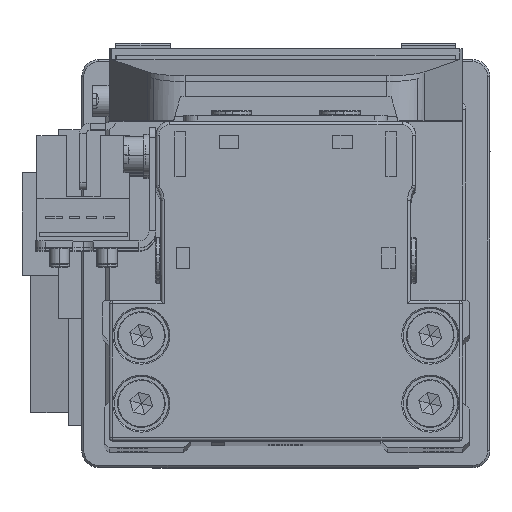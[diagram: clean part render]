
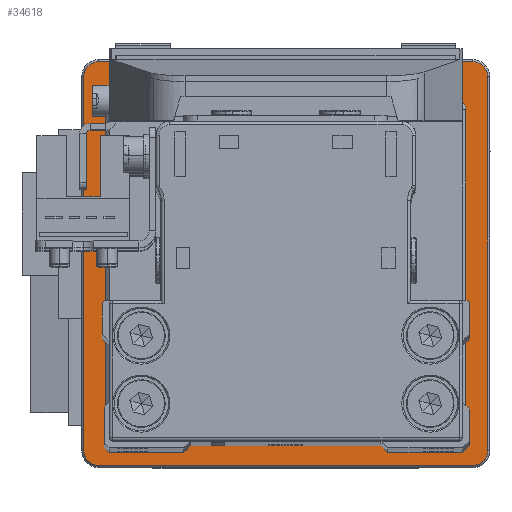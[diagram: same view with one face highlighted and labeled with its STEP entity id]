
A CAD part, top view. The second image highlights one B-rep face of the part: STEP entity #34618.
In plain terms, the highlighted planar face has unit normal (0, 0, 1) as drawn and (0, 1, 0) by its records, which use the part's own axes.
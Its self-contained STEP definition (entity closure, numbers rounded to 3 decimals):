
#273 = AXIS2_PLACEMENT_3D ( 'NONE', #1275, #12740, #24238 ) ;
#282 = VECTOR ( 'NONE', #32260, 1000. ) ;
#341 = CARTESIAN_POINT ( 'NONE',  ( 27.5, 6., -27.5 ) ) ;
#568 = ORIENTED_EDGE ( 'NONE', *, *, #1715, .F. ) ;
#921 = DIRECTION ( 'NONE',  ( 0., 1., 0. ) ) ;
#1150 = EDGE_CURVE ( 'NONE', #26827, #34241, #36508, .T. ) ;
#1275 = CARTESIAN_POINT ( 'NONE',  ( -27.5, 6., -27.5 ) ) ;
#1362 = EDGE_CURVE ( 'NONE', #34241, #9620, #22972, .T. ) ;
#1715 = EDGE_CURVE ( 'NONE', #33255, #13039, #26589, .T. ) ;
#2743 = VECTOR ( 'NONE', #18250, 1000. ) ;
#3768 = EDGE_CURVE ( 'NONE', #10687, #21312, #32693, .T. ) ;
#3801 = CARTESIAN_POINT ( 'NONE',  ( 0., 6., 0. ) ) ;
#4248 = EDGE_CURVE ( 'NONE', #32407, #10687, #30530, .T. ) ;
#4750 = CARTESIAN_POINT ( 'NONE',  ( 0., 6., -29.7 ) ) ;
#5571 = DIRECTION ( 'NONE',  ( 0., 0., -1. ) ) ;
#5642 = DIRECTION ( 'NONE',  ( 0., 1., 0. ) ) ;
#6144 = DIRECTION ( 'NONE',  ( 0., 0., 1. ) ) ;
#6730 = ORIENTED_EDGE ( 'NONE', *, *, #33873, .T. ) ;
#6767 = CARTESIAN_POINT ( 'NONE',  ( -29.7, 6., 0. ) ) ;
#7088 = ORIENTED_EDGE ( 'NONE', *, *, #1150, .T. ) ;
#8112 = VECTOR ( 'NONE', #16231, 1000. ) ;
#8401 = PLANE ( 'NONE',  #28001 ) ;
#8561 = AXIS2_PLACEMENT_3D ( 'NONE', #31426, #5642, #17135 ) ;
#9308 = LINE ( 'NONE', #20789, #282 ) ;
#9620 = VERTEX_POINT ( 'NONE', #31825 ) ;
#9786 = VERTEX_POINT ( 'NONE', #30062 ) ;
#10331 = AXIS2_PLACEMENT_3D ( 'NONE', #20454, #31925, #6144 ) ;
#10687 = VERTEX_POINT ( 'NONE', #15294 ) ;
#10727 = CARTESIAN_POINT ( 'NONE',  ( 0., 6., 29.7 ) ) ;
#11260 = ORIENTED_EDGE ( 'NONE', *, *, #1362, .T. ) ;
#11811 = DIRECTION ( 'NONE',  ( 0., 1., 0. ) ) ;
#12004 = ORIENTED_EDGE ( 'NONE', *, *, #26755, .F. ) ;
#12389 = DIRECTION ( 'NONE',  ( 0., 0., -1. ) ) ;
#12740 = DIRECTION ( 'NONE',  ( 0., 1., 0. ) ) ;
#13039 = VERTEX_POINT ( 'NONE', #18542 ) ;
#13393 = EDGE_CURVE ( 'NONE', #9620, #9786, #9308, .T. ) ;
#14132 = CARTESIAN_POINT ( 'NONE',  ( 27.5, 6., -29.7 ) ) ;
#14144 = CIRCLE ( 'NONE', #35178, 15. ) ;
#14230 = EDGE_CURVE ( 'NONE', #9786, #32407, #33351, .T. ) ;
#15272 = DIRECTION ( 'NONE',  ( 0., 1., 0. ) ) ;
#15294 = CARTESIAN_POINT ( 'NONE',  ( -27.5, 6., -29.7 ) ) ;
#15316 = VERTEX_POINT ( 'NONE', #16891 ) ;
#15950 = ORIENTED_EDGE ( 'NONE', *, *, #4248, .T. ) ;
#16231 = DIRECTION ( 'NONE',  ( -1., 0., 0. ) ) ;
#16296 = ORIENTED_EDGE ( 'NONE', *, *, #3768, .T. ) ;
#16891 = CARTESIAN_POINT ( 'NONE',  ( -29.7, 6., 27.5 ) ) ;
#17135 = DIRECTION ( 'NONE',  ( 0., 0., -1. ) ) ;
#17159 = AXIS2_PLACEMENT_3D ( 'NONE', #341, #11811, #23299 ) ;
#17471 = CARTESIAN_POINT ( 'NONE',  ( 27.5, 6., 29.7 ) ) ;
#17603 = CARTESIAN_POINT ( 'NONE',  ( 0., 6., -15. ) ) ;
#18250 = DIRECTION ( 'NONE',  ( 0., 0., 1. ) ) ;
#18542 = CARTESIAN_POINT ( 'NONE',  ( 0., 6., 15. ) ) ;
#19088 = EDGE_LOOP ( 'NONE', ( #12004, #568 ) ) ;
#19879 = CARTESIAN_POINT ( 'NONE',  ( 0., 6., 0. ) ) ;
#20454 = CARTESIAN_POINT ( 'NONE',  ( 0., 6., 0. ) ) ;
#20536 = EDGE_CURVE ( 'NONE', #15316, #26827, #24755, .T. ) ;
#20789 = CARTESIAN_POINT ( 'NONE',  ( 29.7, 6., 0. ) ) ;
#21312 = VERTEX_POINT ( 'NONE', #21717 ) ;
#21717 = CARTESIAN_POINT ( 'NONE',  ( -29.7, 6., -27.5 ) ) ;
#22203 = DIRECTION ( 'NONE',  ( 1., 0., 0. ) ) ;
#22684 = ORIENTED_EDGE ( 'NONE', *, *, #20536, .T. ) ;
#22712 = FACE_OUTER_BOUND ( 'NONE', #25307, .T. ) ;
#22972 = CIRCLE ( 'NONE', #27735, 2.2 ) ;
#23299 = DIRECTION ( 'NONE',  ( 0., 0., -1. ) ) ;
#24238 = DIRECTION ( 'NONE',  ( 0., 0., -1. ) ) ;
#24755 = CIRCLE ( 'NONE', #8561, 2.2 ) ;
#24827 = VECTOR ( 'NONE', #22203, 1000. ) ;
#25307 = EDGE_LOOP ( 'NONE', ( #27771, #15950, #16296, #6730, #22684, #7088, #11260, #36194 ) ) ;
#26589 = CIRCLE ( 'NONE', #10331, 15. ) ;
#26691 = CARTESIAN_POINT ( 'NONE',  ( 27.5, 6., 27.5 ) ) ;
#26755 = EDGE_CURVE ( 'NONE', #13039, #33255, #14144, .T. ) ;
#26765 = DIRECTION ( 'NONE',  ( 0., 0., 1. ) ) ;
#26827 = VERTEX_POINT ( 'NONE', #30620 ) ;
#27735 = AXIS2_PLACEMENT_3D ( 'NONE', #26691, #921, #12389 ) ;
#27771 = ORIENTED_EDGE ( 'NONE', *, *, #14230, .T. ) ;
#28001 = AXIS2_PLACEMENT_3D ( 'NONE', #19879, #31354, #5571 ) ;
#30062 = CARTESIAN_POINT ( 'NONE',  ( 29.7, 6., -27.5 ) ) ;
#30530 = LINE ( 'NONE', #4750, #8112 ) ;
#30620 = CARTESIAN_POINT ( 'NONE',  ( -27.5, 6., 29.7 ) ) ;
#31354 = DIRECTION ( 'NONE',  ( 0., -1., 0. ) ) ;
#31426 = CARTESIAN_POINT ( 'NONE',  ( -27.5, 6., 27.5 ) ) ;
#31825 = CARTESIAN_POINT ( 'NONE',  ( 29.7, 6., 27.5 ) ) ;
#31925 = DIRECTION ( 'NONE',  ( 0., 1., 0. ) ) ;
#32260 = DIRECTION ( 'NONE',  ( 0., 0., -1. ) ) ;
#32407 = VERTEX_POINT ( 'NONE', #14132 ) ;
#32545 = LINE ( 'NONE', #6767, #2743 ) ;
#32693 = CIRCLE ( 'NONE', #273, 2.2 ) ;
#33255 = VERTEX_POINT ( 'NONE', #17603 ) ;
#33351 = CIRCLE ( 'NONE', #17159, 2.2 ) ;
#33873 = EDGE_CURVE ( 'NONE', #21312, #15316, #32545, .T. ) ;
#34192 = FACE_BOUND ( 'NONE', #19088, .T. ) ;
#34241 = VERTEX_POINT ( 'NONE', #17471 ) ;
#34618 = ADVANCED_FACE ( 'NONE', ( #22712, #34192 ), #8401, .F. ) ;
#35178 = AXIS2_PLACEMENT_3D ( 'NONE', #3801, #15272, #26765 ) ;
#36194 = ORIENTED_EDGE ( 'NONE', *, *, #13393, .T. ) ;
#36508 = LINE ( 'NONE', #10727, #24827 ) ;
